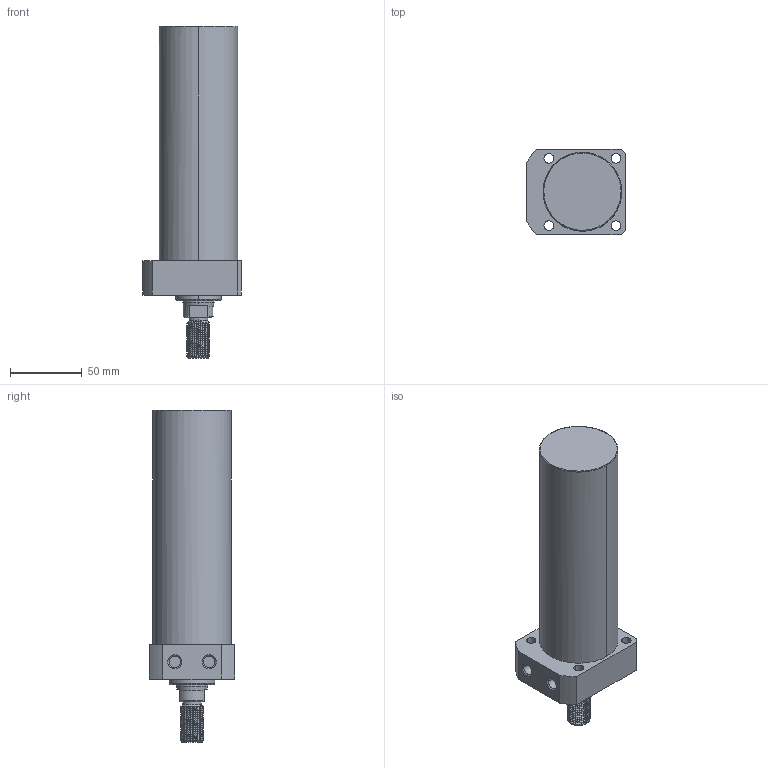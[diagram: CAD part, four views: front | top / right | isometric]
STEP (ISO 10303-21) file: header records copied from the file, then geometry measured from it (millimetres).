
FILE_DESCRIPTION((' '),'2;1');
FILE_NAME( 'TLLR-055CT-135.STEP.stp', '2025-10-24T16:34:49', (' '), ('--- Datakit www.datakit.com---'), ' Datakit CrossCadWare V2024.1 Dec 21 2023', 'Mastercam 2025', ' ');
FILE_SCHEMA(('AUTOMOTIVE_DESIGN { 1 0 10303 214 1 1 1 1 }'));
Length unit declared in the file: millimetre
Products named in the file (1): TLLR-055CT-135
Bounding box: 69 x 60 x 232 mm (x, y, z)
Volume: 494399.8 mm3; surface area: 48113.7 mm2
Topology: 1 solids, 1 shells, 101 faces, 356 edges, 265 vertices
Faces by surface type: cylinder 61, plane 20, cone 16, bspline 2, torus 2
Entity records: 11130 total; most frequent: CARTESIAN_POINT 8050, ORIENTED_EDGE 712, DIRECTION 516, EDGE_CURVE 356, VERTEX_POINT 265, AXIS2_PLACEMENT_3D 209, B_SPLINE_CURVE_WITH_KNOTS 149, EDGE_LOOP 117
